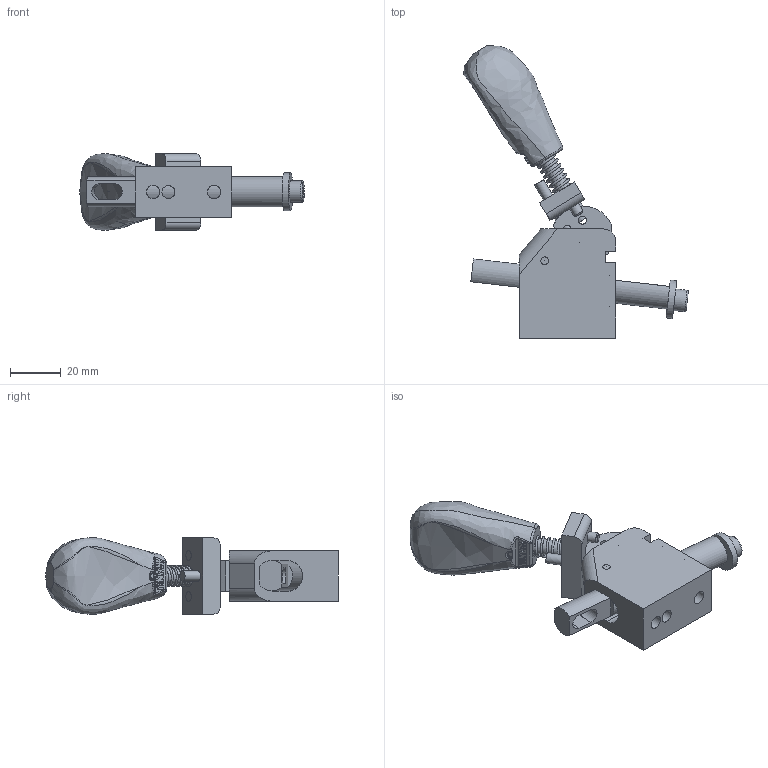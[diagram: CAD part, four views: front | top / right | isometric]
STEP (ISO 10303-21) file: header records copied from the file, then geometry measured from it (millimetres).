
FILE_DESCRIPTION(/* description */ (''),/* implementation_level */ '2;1');
FILE_NAME(/* name */ '\\192.168.1.150\pc03\Inventor\デュアルメカニズムクランプ最終\2017.10月　最新型\SUD-20ST-L\SUD-20ST-L-UNCLAMP.stp',/* time_stamp */ '2024-05-14T17:04:44+09:00',/* author */ ('Backup'),/* organization */ (''),/* preprocessor_version */ 'ST-DEVELOPER v17',/* originating_system */ 'Autodesk Inventor 2019',/* authorisation */ '');
FILE_SCHEMA (('AUTOMOTIVE_DESIGN { 1 0 10303 214 3 1 1 }'));
Length unit declared in the file: millimetre
Products named in the file (13): SUD-20ST-CLAMP; ボディー; 50-30_VER4_PG2__12; SB止め板; Φ8×40ｼｬﾌﾄ; カム; スライドバー; AS 1420 - 1973 - M5 x 14; ピン　３×20; ロック機構; φ4×25; φ4×25_1; スプリング
Assembly tree (13 placements, depth 2):
  SUD-20ST-CLAMP
    ボディー
    50-30_VER4_PG2__12
    SB止め板
    Φ8×40ｼｬﾌﾄ
    カム
    スライドバー
    AS 1420 - 1973 - M5 x 14
    ピン　３×20
    ロック機構
    φ4×25
    φ4×25_1  x2
    スプリング
Bounding box: 88.41 x 115.17 x 30.18 mm (x, y, z)
Volume: 54059.1 mm3; surface area: 24339.7 mm2
Topology: 14 solids, 14 shells, 268 faces, 727 edges, 486 vertices
Faces by surface type: plane 130, cylinder 99, bspline 25, cone 8, sphere 4, torus 2
Full cylindrical faces by diameter (mm): 0.01 x13, 0.1 x1, 1.306 x1, 3 x1, 3.2 x8, 4 x7, 4.1 x1, 5 x2, 5.1 x1, 5.2 x3, 6 x3, 6.1 x1, 8.5 x1, 12 x1, 15 x1
Entity records: 20252 total; most frequent: CARTESIAN_POINT 13050, ORIENTED_EDGE 1432, DIRECTION 1368, EDGE_CURVE 716, AXIS2_PLACEMENT_3D 498, VERTEX_POINT 483, LINE 372, VECTOR 372
